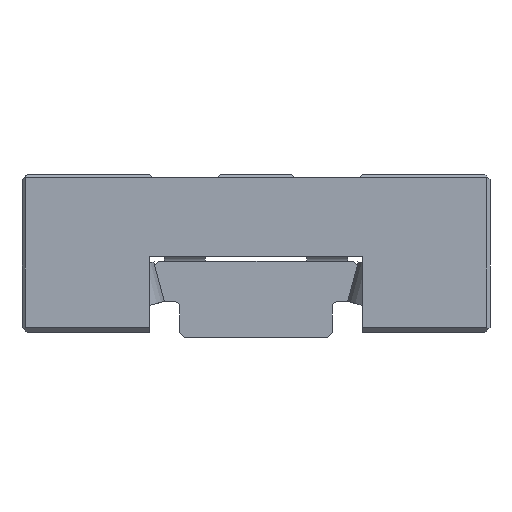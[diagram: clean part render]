
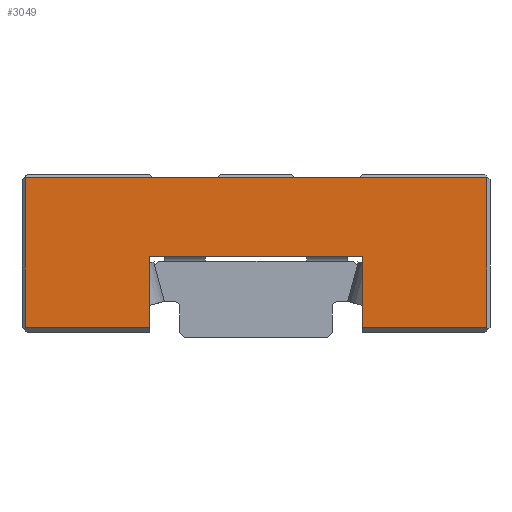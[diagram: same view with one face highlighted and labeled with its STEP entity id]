
A CAD part, left-side view. The second image highlights one B-rep face of the part: STEP entity #3049.
In plain terms, the highlighted planar face has unit normal (-1, 0, 0).
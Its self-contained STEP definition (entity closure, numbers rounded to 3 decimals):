
#2878=CARTESIAN_POINT('',(111.962,-10.5,-6.5));
#2879=VERTEX_POINT('',#2878);
#2886=CARTESIAN_POINT('',(111.962,-10.5,0.5));
#2887=VERTEX_POINT('',#2886);
#2888=CARTESIAN_POINT('',(111.962,-10.5,-6.5));
#2889=DIRECTION('',(0.0,0.0,1.0));
#2890=VECTOR('',#2889,7.);
#2891=LINE('',#2888,#2890);
#2892=EDGE_CURVE('',#2879,#2887,#2891,.T.);
#2943=CARTESIAN_POINT('',(111.962,-22.7,-6.5));
#2944=VERTEX_POINT('',#2943);
#2951=CARTESIAN_POINT('',(111.962,-22.7,-6.5));
#2952=DIRECTION('',(0.0,1.0,0.0));
#2953=VECTOR('',#2952,12.2);
#2954=LINE('',#2951,#2953);
#2955=EDGE_CURVE('',#2944,#2879,#2954,.T.);
#2962=CARTESIAN_POINT('',(111.962,-16.75,8.35));
#2963=DIRECTION('',(1.0,0.0,0.0));
#2964=DIRECTION('',(0.0,0.0,-1.0));
#2965=AXIS2_PLACEMENT_3D('',#2962,#2963,#2964);
#2966=PLANE('',#2965);
#2967=ORIENTED_EDGE('',*,*,#2955,.F.);
#2968=CARTESIAN_POINT('',(111.962,-22.7,8.2));
#2969=VERTEX_POINT('',#2968);
#2970=CARTESIAN_POINT('',(111.962,-22.7,8.2));
#2971=DIRECTION('',(0.0,0.0,-1.0));
#2972=VECTOR('',#2971,14.7);
#2973=LINE('',#2970,#2972);
#2974=EDGE_CURVE('',#2969,#2944,#2973,.T.);
#2975=ORIENTED_EDGE('',*,*,#2974,.F.);
#2976=CARTESIAN_POINT('',(111.962,-10.2,8.2));
#2977=VERTEX_POINT('',#2976);
#2978=CARTESIAN_POINT('',(111.962,-10.2,8.2));
#2979=DIRECTION('',(0.0,-1.0,0.0));
#2980=VECTOR('',#2979,12.5);
#2981=LINE('',#2978,#2980);
#2982=EDGE_CURVE('',#2977,#2969,#2981,.T.);
#2983=ORIENTED_EDGE('',*,*,#2982,.F.);
#2984=CARTESIAN_POINT('',(111.962,-3.8,8.2));
#2985=VERTEX_POINT('',#2984);
#2986=CARTESIAN_POINT('',(111.962,-3.8,8.2));
#2987=DIRECTION('',(0.0,-1.0,0.0));
#2988=VECTOR('',#2987,6.4);
#2989=LINE('',#2986,#2988);
#2990=EDGE_CURVE('',#2985,#2977,#2989,.T.);
#2991=ORIENTED_EDGE('',*,*,#2990,.F.);
#2992=CARTESIAN_POINT('',(111.962,3.8,8.2));
#2993=VERTEX_POINT('',#2992);
#2994=CARTESIAN_POINT('',(111.962,3.8,8.2));
#2995=DIRECTION('',(0.0,-1.0,0.0));
#2996=VECTOR('',#2995,7.6);
#2997=LINE('',#2994,#2996);
#2998=EDGE_CURVE('',#2993,#2985,#2997,.T.);
#2999=ORIENTED_EDGE('',*,*,#2998,.F.);
#3000=CARTESIAN_POINT('',(111.962,10.2,8.2));
#3001=VERTEX_POINT('',#3000);
#3002=CARTESIAN_POINT('',(111.962,10.2,8.2));
#3003=DIRECTION('',(0.0,-1.0,0.0));
#3004=VECTOR('',#3003,6.4);
#3005=LINE('',#3002,#3004);
#3006=EDGE_CURVE('',#3001,#2993,#3005,.T.);
#3007=ORIENTED_EDGE('',*,*,#3006,.F.);
#3008=CARTESIAN_POINT('',(111.962,22.7,8.2));
#3009=VERTEX_POINT('',#3008);
#3010=CARTESIAN_POINT('',(111.962,22.7,8.2));
#3011=DIRECTION('',(0.0,-1.0,0.0));
#3012=VECTOR('',#3011,12.5);
#3013=LINE('',#3010,#3012);
#3014=EDGE_CURVE('',#3009,#3001,#3013,.T.);
#3015=ORIENTED_EDGE('',*,*,#3014,.F.);
#3016=CARTESIAN_POINT('',(111.962,22.7,-6.5));
#3017=VERTEX_POINT('',#3016);
#3018=CARTESIAN_POINT('',(111.962,22.7,-6.5));
#3019=DIRECTION('',(0.0,0.0,1.0));
#3020=VECTOR('',#3019,14.7);
#3021=LINE('',#3018,#3020);
#3022=EDGE_CURVE('',#3017,#3009,#3021,.T.);
#3023=ORIENTED_EDGE('',*,*,#3022,.F.);
#3024=CARTESIAN_POINT('',(111.962,10.5,-6.5));
#3025=VERTEX_POINT('',#3024);
#3026=CARTESIAN_POINT('',(111.962,10.5,-6.5));
#3027=DIRECTION('',(0.0,1.0,0.0));
#3028=VECTOR('',#3027,12.2);
#3029=LINE('',#3026,#3028);
#3030=EDGE_CURVE('',#3025,#3017,#3029,.T.);
#3031=ORIENTED_EDGE('',*,*,#3030,.F.);
#3032=CARTESIAN_POINT('',(111.962,10.5,0.5));
#3033=VERTEX_POINT('',#3032);
#3034=CARTESIAN_POINT('',(111.962,10.5,0.5));
#3035=DIRECTION('',(0.0,0.0,-1.0));
#3036=VECTOR('',#3035,7.);
#3037=LINE('',#3034,#3036);
#3038=EDGE_CURVE('',#3033,#3025,#3037,.T.);
#3039=ORIENTED_EDGE('',*,*,#3038,.F.);
#3040=CARTESIAN_POINT('',(111.962,-10.5,0.5));
#3041=DIRECTION('',(0.0,1.0,0.0));
#3042=VECTOR('',#3041,21.);
#3043=LINE('',#3040,#3042);
#3044=EDGE_CURVE('',#2887,#3033,#3043,.T.);
#3045=ORIENTED_EDGE('',*,*,#3044,.F.);
#3046=ORIENTED_EDGE('',*,*,#2892,.F.);
#3047=EDGE_LOOP('',(#2967,#2975,#2983,#2991,#2999,#3007,#3015,#3023,#3031,#3039,#3045,#3046));
#3048=FACE_OUTER_BOUND('',#3047,.T.);
#3049=ADVANCED_FACE('',(#3048),#2966,.F.);
